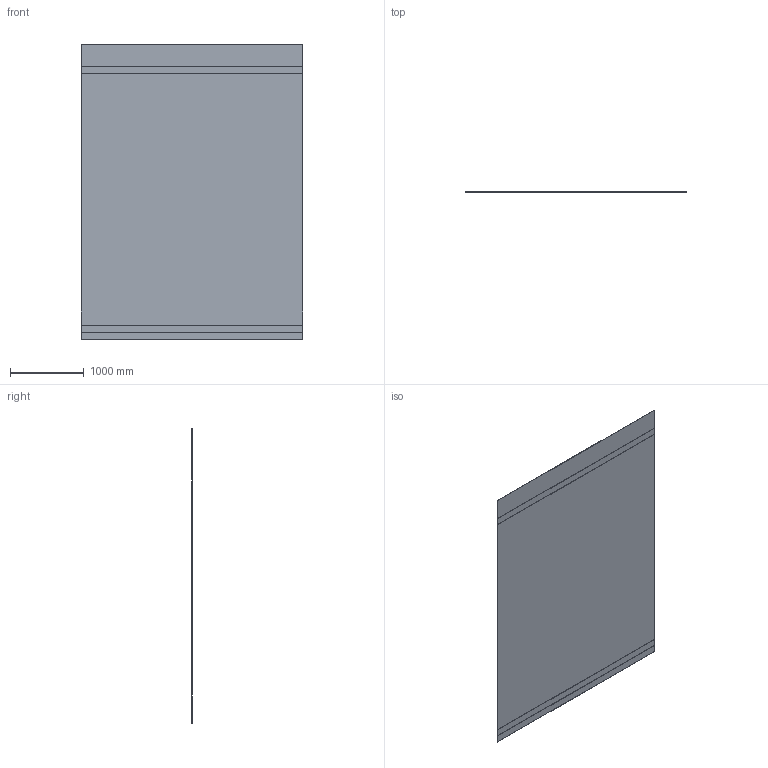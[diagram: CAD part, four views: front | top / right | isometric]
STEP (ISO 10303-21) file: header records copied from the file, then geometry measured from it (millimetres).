
FILE_DESCRIPTION(/* description */ (''),/* implementation_level */ '2;1');
FILE_NAME(/* name */ 'R:\Ufficio Tecnico\FILE SEMPLIFICATI 3D PER SITO\ONDA\TA02\File semplificato\TA01.stp',/* time_stamp */ '2023-09-04T15:14:03+02:00',/* author */ ('Michela.Gerbotto'),/* organization */ (''),/* preprocessor_version */ 'ST-DEVELOPER v18.1',/* originating_system */ 'Autodesk Inventor 2022',/* authorisation */ '');
FILE_SCHEMA (('AUTOMOTIVE_DESIGN { 1 0 10303 214 3 1 1 }'));
Length unit declared in the file: millimetre
Products named in the file (1): TA01
Bounding box: 3000 x 5 x 4000 mm (x, y, z)
Volume: 59979398.2 mm3; surface area: 24169384.5 mm2
Topology: 5 solids, 5 shells, 38 faces, 96 edges, 84 vertices
Faces by surface type: plane 30, cylinder 8
Entity records: 1145 total; most frequent: CARTESIAN_POINT 207, DIRECTION 178, ORIENTED_EDGE 168, EDGE_CURVE 84, LINE 68, VECTOR 68, VERTEX_POINT 56, AXIS2_PLACEMENT_3D 55
